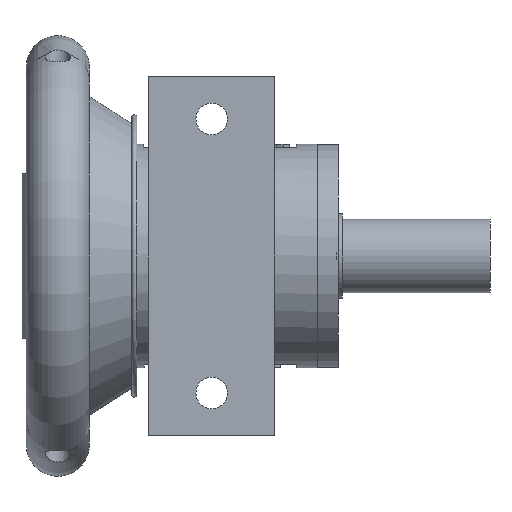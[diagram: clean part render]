
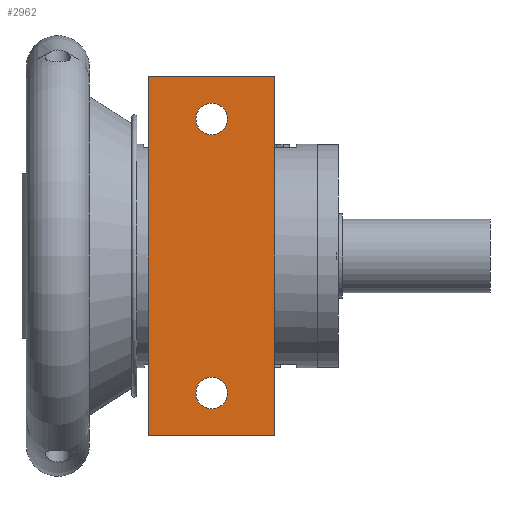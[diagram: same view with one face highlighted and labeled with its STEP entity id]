
A CAD part, front view. The second image highlights one B-rep face of the part: STEP entity #2962.
In plain terms, the highlighted planar face has unit normal (0, -1, 0).
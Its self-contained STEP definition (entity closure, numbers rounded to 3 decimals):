
#2904 = VERTEX_POINT ( 'NONE', #13150 ) ;
#2908 = VERTEX_POINT ( 'NONE', #13145 ) ;
#2910 = EDGE_CURVE ( 'NONE', #2908, #2904, #13207, .T. ) ;
#2939 = EDGE_CURVE ( 'NONE', #6530, #6494, #13233, .T. ) ;
#2940 = ORIENTED_EDGE ( 'NONE', *, *, #6528, .F. ) ;
#2941 = EDGE_LOOP ( 'NONE', ( #2942, #2944 ) ) ;
#2942 = ORIENTED_EDGE ( 'NONE', *, *, #2943, .F. ) ;
#2943 = EDGE_CURVE ( 'NONE', #6755, #6788, #13228, .T. ) ;
#2944 = ORIENTED_EDGE ( 'NONE', *, *, #6814, .F. ) ;
#2945 = EDGE_LOOP ( 'NONE', ( #2946, #2948, #2949, #2951 ) ) ;
#2946 = ORIENTED_EDGE ( 'NONE', *, *, #2947, .F. ) ;
#2947 = EDGE_CURVE ( 'NONE', #2904, #2955, #13223, .T. ) ;
#2948 = ORIENTED_EDGE ( 'NONE', *, *, #2910, .F. ) ;
#2949 = ORIENTED_EDGE ( 'NONE', *, *, #2950, .T. ) ;
#2950 = EDGE_CURVE ( 'NONE', #2908, #2958, #13219, .T. ) ;
#2951 = ORIENTED_EDGE ( 'NONE', *, *, #2957, .T. ) ;
#2955 = VERTEX_POINT ( 'NONE', #13294 ) ;
#2957 = EDGE_CURVE ( 'NONE', #2958, #2955, #13290, .T. ) ;
#2958 = VERTEX_POINT ( 'NONE', #13284 ) ;
#2962 = ADVANCED_FACE ( 'NONE', ( #13274, #13273, #13271 ), #13270, .T. ) ;
#2963 = EDGE_LOOP ( 'NONE', ( #2964, #2940 ) ) ;
#2964 = ORIENTED_EDGE ( 'NONE', *, *, #2939, .F. ) ;
#6494 = VERTEX_POINT ( 'NONE', #25325 ) ;
#6528 = EDGE_CURVE ( 'NONE', #6494, #6530, #25498, .T. ) ;
#6530 = VERTEX_POINT ( 'NONE', #25494 ) ;
#6755 = VERTEX_POINT ( 'NONE', #26329 ) ;
#6788 = VERTEX_POINT ( 'NONE', #26460 ) ;
#6814 = EDGE_CURVE ( 'NONE', #6788, #6755, #26577, .T. ) ;
#13145 = CARTESIAN_POINT ( 'NONE',  ( -80., -75., 85. ) ) ;
#13150 = CARTESIAN_POINT ( 'NONE',  ( -20., -75., 85. ) ) ;
#13204 = DIRECTION ( 'NONE',  ( 1., 0., 0. ) ) ;
#13205 = VECTOR ( 'NONE', #13204, 1000. ) ;
#13206 = CARTESIAN_POINT ( 'NONE',  ( -80., -75., 85. ) ) ;
#13207 = LINE ( 'NONE', #13206, #13205 ) ;
#13216 = DIRECTION ( 'NONE',  ( 0., 0., -1. ) ) ;
#13217 = VECTOR ( 'NONE', #13216, 1000. ) ;
#13218 = CARTESIAN_POINT ( 'NONE',  ( -80., -75., 85. ) ) ;
#13219 = LINE ( 'NONE', #13218, #13217 ) ;
#13220 = DIRECTION ( 'NONE',  ( 0., 0., -1. ) ) ;
#13221 = VECTOR ( 'NONE', #13220, 1000. ) ;
#13222 = CARTESIAN_POINT ( 'NONE',  ( -20., -75., 85. ) ) ;
#13223 = LINE ( 'NONE', #13222, #13221 ) ;
#13224 = DIRECTION ( 'NONE',  ( 0., 0., -1. ) ) ;
#13225 = DIRECTION ( 'NONE',  ( 0., -1., 0. ) ) ;
#13226 = CARTESIAN_POINT ( 'NONE',  ( -50., -75., 65. ) ) ;
#13227 = AXIS2_PLACEMENT_3D ( 'NONE', #13226, #13225, #13224 ) ;
#13228 = CIRCLE ( 'NONE', #13227, 7.5 ) ;
#13229 = DIRECTION ( 'NONE',  ( 0., 0., -1. ) ) ;
#13230 = DIRECTION ( 'NONE',  ( 0., -1., 0. ) ) ;
#13231 = CARTESIAN_POINT ( 'NONE',  ( -50., -75., -65. ) ) ;
#13232 = AXIS2_PLACEMENT_3D ( 'NONE', #13231, #13230, #13229 ) ;
#13233 = CIRCLE ( 'NONE', #13232, 7.5 ) ;
#13262 = DIRECTION ( 'NONE',  ( 0., 0., -1. ) ) ;
#13264 = DIRECTION ( 'NONE',  ( 0., -1., 0. ) ) ;
#13267 = CARTESIAN_POINT ( 'NONE',  ( -80., -75., 85. ) ) ;
#13269 = AXIS2_PLACEMENT_3D ( 'NONE', #13267, #13264, #13262 ) ;
#13270 = PLANE ( 'NONE',  #13269 ) ;
#13271 = FACE_OUTER_BOUND ( 'NONE', #2945, .T. ) ;
#13273 = FACE_BOUND ( 'NONE', #2941, .T. ) ;
#13274 = FACE_BOUND ( 'NONE', #2963, .T. ) ;
#13284 = CARTESIAN_POINT ( 'NONE',  ( -80., -75., -85. ) ) ;
#13285 = DIRECTION ( 'NONE',  ( 1., 0., 0. ) ) ;
#13286 = VECTOR ( 'NONE', #13285, 1000. ) ;
#13288 = CARTESIAN_POINT ( 'NONE',  ( -80., -75., -85. ) ) ;
#13290 = LINE ( 'NONE', #13288, #13286 ) ;
#13294 = CARTESIAN_POINT ( 'NONE',  ( -20., -75., -85. ) ) ;
#25325 = CARTESIAN_POINT ( 'NONE',  ( -50., -75., -57.5 ) ) ;
#25494 = CARTESIAN_POINT ( 'NONE',  ( -50., -75., -72.5 ) ) ;
#25495 = DIRECTION ( 'NONE',  ( 0., 0., -1. ) ) ;
#25496 = DIRECTION ( 'NONE',  ( 0., -1., 0. ) ) ;
#25497 = AXIS2_PLACEMENT_3D ( 'NONE', #25502, #25496, #25495 ) ;
#25498 = CIRCLE ( 'NONE', #25497, 7.5 ) ;
#25502 = CARTESIAN_POINT ( 'NONE',  ( -50., -75., -65. ) ) ;
#26329 = CARTESIAN_POINT ( 'NONE',  ( -50., -75., 57.5 ) ) ;
#26460 = CARTESIAN_POINT ( 'NONE',  ( -50., -75., 72.5 ) ) ;
#26573 = DIRECTION ( 'NONE',  ( 0., 0., -1. ) ) ;
#26574 = DIRECTION ( 'NONE',  ( 0., -1., 0. ) ) ;
#26575 = CARTESIAN_POINT ( 'NONE',  ( -50., -75., 65. ) ) ;
#26576 = AXIS2_PLACEMENT_3D ( 'NONE', #26575, #26574, #26573 ) ;
#26577 = CIRCLE ( 'NONE', #26576, 7.5 ) ;
